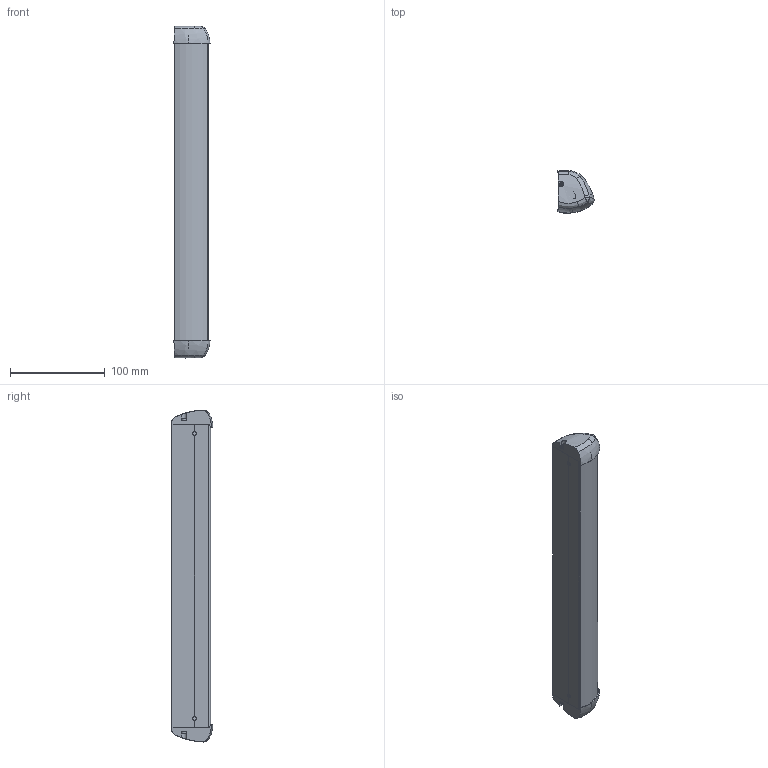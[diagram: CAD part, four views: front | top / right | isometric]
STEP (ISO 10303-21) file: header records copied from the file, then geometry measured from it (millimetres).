
FILE_DESCRIPTION (( 'STEP AP214' ), '1' );
FILE_NAME ('260012_C.STEP', '2019-09-23T07:47:13', ( '' ), ( '' ), 'SwSTEP 2.0', 'SolidWorks 2017', '' );
FILE_SCHEMA (( 'AUTOMOTIVE_DESIGN' ));
Length unit declared in the file: millimetre
Products named in the file (2): 260012_C
Bounding box: 38.05 x 44.18 x 349.88 mm (x, y, z)
Surface area: 52563 mm2 (no closed solid volume)
Topology: 0 solids, 12 shells, 122 faces, 587 edges, 465 vertices
Faces by surface type: plane 44, cylinder 30, cone 20, bspline 16, torus 10, sphere 2
Entity records: 8237 total; most frequent: CARTESIAN_POINT 2542, DIRECTION 849, ORIENTED_EDGE 807, EDGE_CURVE 587, VERTEX_POINT 465, AXIS2_PLACEMENT_3D 290, LINE 269, VECTOR 269
